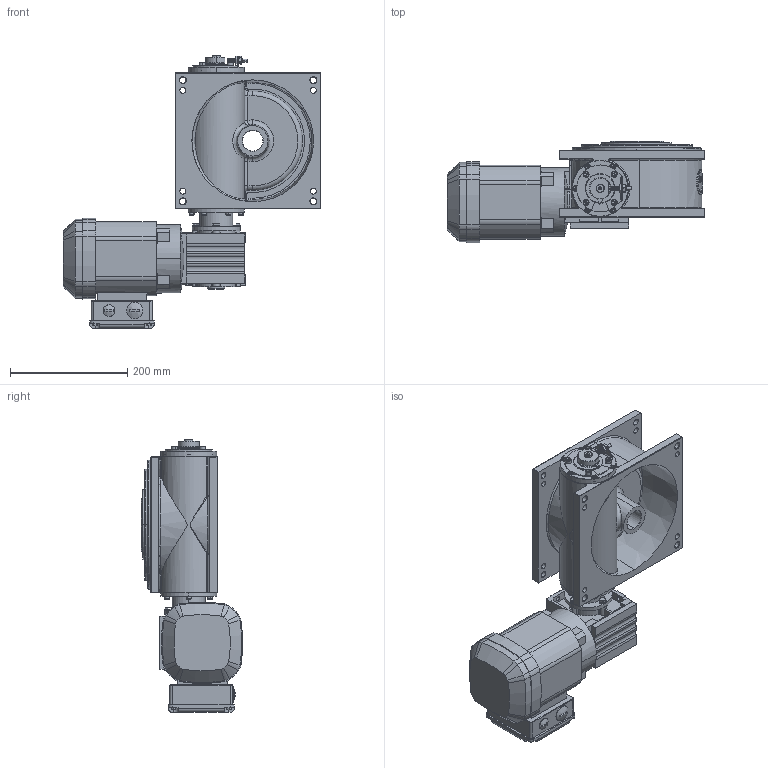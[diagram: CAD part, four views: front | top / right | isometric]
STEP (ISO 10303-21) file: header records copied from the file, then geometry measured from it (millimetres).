
FILE_DESCRIPTION (( 'STEP AP214' ), '1' );
FILE_NAME ('M190_SEW_WA20DRS71S4_E3.STEP', '2021-01-25T15:09:21', ( '' ), ( '' ), 'SwSTEP 2.0', 'SolidWorks 2020', '' );
FILE_SCHEMA (( 'AUTOMOTIVE_DESIGN' ));
Length unit declared in the file: millimetre
Products named in the file (1): M190_SEW_WA20DRS71S4_E3
Bounding box: 439.5 x 172.74 x 466.05 mm (x, y, z)
Surface area: 593353 mm2 (no closed solid volume)
Topology: 0 solids, 63 shells, 1255 faces, 3782 edges, 2486 vertices
Faces by surface type: plane 510, cylinder 419, cone 155, bspline 96, torus 63, sphere 12
Entity records: 65368 total; most frequent: CARTESIAN_POINT 18398, DIRECTION 6919, ORIENTED_EDGE 6501, EDGE_CURVE 3739, VERTEX_POINT 2486, AXIS2_PLACEMENT_3D 2476, VECTOR 1967, LINE 1967
